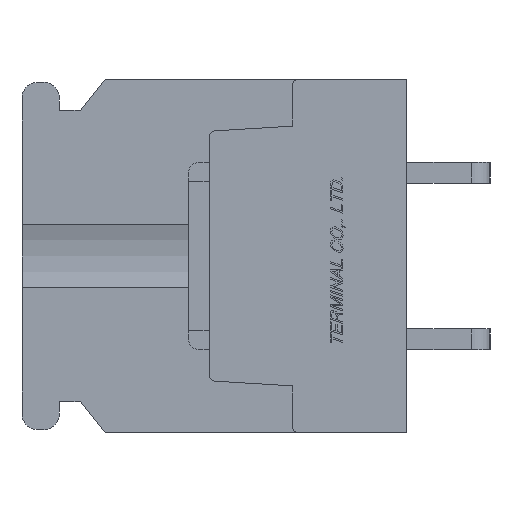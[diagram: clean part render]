
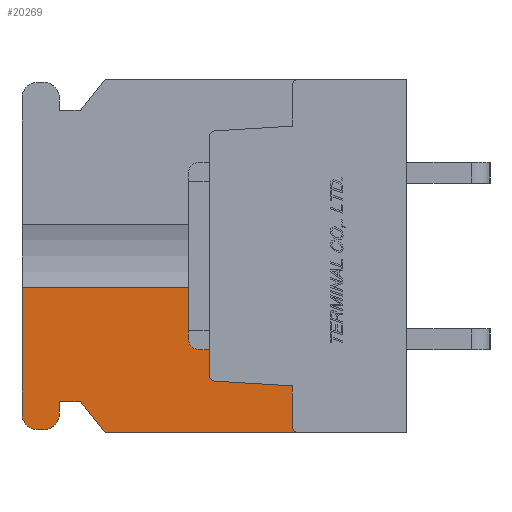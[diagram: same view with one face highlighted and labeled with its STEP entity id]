
A CAD part, left-side view. The second image highlights one B-rep face of the part: STEP entity #20269.
In plain terms, the highlighted planar face has unit normal (-1, 0, 0).
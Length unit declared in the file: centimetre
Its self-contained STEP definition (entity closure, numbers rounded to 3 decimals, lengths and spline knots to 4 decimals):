
#1483=VECTOR('',#23066,1.);
#1484=VECTOR('',#23067,1.);
#1485=VECTOR('',#23068,1.);
#1486=VECTOR('',#23071,1.);
#1487=VECTOR('',#23074,1.);
#1488=VECTOR('',#23075,1.);
#1489=VECTOR('',#23076,1.);
#1490=VECTOR('',#23077,1.);
#1491=VECTOR('',#23080,1.);
#1492=VECTOR('',#23081,1.);
#3721=LINE('',#28970,#1483);
#3722=LINE('',#28973,#1484);
#3723=LINE('',#28975,#1485);
#3724=LINE('',#28979,#1486);
#3725=LINE('',#28983,#1487);
#3726=LINE('',#28985,#1488);
#3727=LINE('',#28987,#1489);
#3728=LINE('',#28989,#1490);
#3729=LINE('',#28993,#1491);
#3730=LINE('',#28995,#1492);
#5910=VERTEX_POINT('',#28971);
#5911=VERTEX_POINT('',#28972);
#5912=VERTEX_POINT('',#28974);
#5913=VERTEX_POINT('',#28976);
#5914=VERTEX_POINT('',#28978);
#5915=VERTEX_POINT('',#28980);
#5916=VERTEX_POINT('',#28982);
#5917=VERTEX_POINT('',#28984);
#5918=VERTEX_POINT('',#28986);
#5919=VERTEX_POINT('',#28988);
#5920=VERTEX_POINT('',#28990);
#5921=VERTEX_POINT('',#28992);
#5922=VERTEX_POINT('',#28994);
#5923=VERTEX_POINT('',#28996);
#7468=CIRCLE('',#34586,0.075);
#7469=CIRCLE('',#34587,0.075);
#7470=CIRCLE('',#34588,0.03);
#7471=CIRCLE('',#34589,0.03);
#8802=EDGE_CURVE('',#5910,#5911,#3721,.T.);
#8803=EDGE_CURVE('',#5910,#5912,#3722,.T.);
#8804=EDGE_CURVE('',#5913,#5912,#3723,.T.);
#8805=EDGE_CURVE('',#5914,#5913,#7468,.T.);
#8806=EDGE_CURVE('',#5915,#5914,#3724,.T.);
#8807=EDGE_CURVE('',#5916,#5915,#7469,.T.);
#8808=EDGE_CURVE('',#5917,#5916,#3725,.T.);
#8809=EDGE_CURVE('',#5918,#5917,#3726,.T.);
#8810=EDGE_CURVE('',#5919,#5918,#3727,.T.);
#8811=EDGE_CURVE('',#5920,#5919,#3728,.T.);
#8812=EDGE_CURVE('',#5921,#5920,#7470,.T.);
#8813=EDGE_CURVE('',#5922,#5921,#3729,.T.);
#8814=EDGE_CURVE('',#5923,#5922,#3730,.T.);
#8815=EDGE_CURVE('',#5911,#5923,#7471,.T.);
#12710=ORIENTED_EDGE('',*,*,#8802,.F.);
#12711=ORIENTED_EDGE('',*,*,#8803,.T.);
#12712=ORIENTED_EDGE('',*,*,#8804,.F.);
#12713=ORIENTED_EDGE('',*,*,#8805,.F.);
#12714=ORIENTED_EDGE('',*,*,#8806,.F.);
#12715=ORIENTED_EDGE('',*,*,#8807,.F.);
#12716=ORIENTED_EDGE('',*,*,#8808,.F.);
#12717=ORIENTED_EDGE('',*,*,#8809,.F.);
#12718=ORIENTED_EDGE('',*,*,#8810,.F.);
#12719=ORIENTED_EDGE('',*,*,#8811,.F.);
#12720=ORIENTED_EDGE('',*,*,#8812,.F.);
#12721=ORIENTED_EDGE('',*,*,#8813,.F.);
#12722=ORIENTED_EDGE('',*,*,#8814,.F.);
#12723=ORIENTED_EDGE('',*,*,#8815,.F.);
#17712=EDGE_LOOP('',(#12710,#12711,#12712,#12713,#12714,#12715,#12716,#12717,
#12718,#12719,#12720,#12721,#12722,#12723));
#19018=FACE_BOUND('',#17712,.T.);
#20269=ADVANCED_FACE('',(#19018),#21340,.F.);
#21340=PLANE('',#34585);
#23065=DIRECTION('',(1.,0.,0.));
#23066=DIRECTION('',(0.,0.,-1.));
#23067=DIRECTION('',(0.,1.,0.));
#23068=DIRECTION('',(0.,0.,1.));
#23069=DIRECTION('',(1.,0.,0.));
#23070=DIRECTION('',(0.,0.,-0.075));
#23071=DIRECTION('',(0.,1.,0.));
#23072=DIRECTION('',(1.,0.,0.));
#23073=DIRECTION('',(0.,0.,-0.075));
#23074=DIRECTION('',(0.,0.,-1.));
#23075=DIRECTION('',(0.,1.,0.));
#23076=DIRECTION('',(0.,0.625,0.781));
#23077=DIRECTION('',(0.,1.,0.));
#23078=DIRECTION('',(-1.,0.,0.));
#23079=DIRECTION('',(0.,0.,0.03));
#23080=DIRECTION('',(0.,0.,-1.));
#23081=DIRECTION('',(0.,-0.998,-0.061));
#23082=DIRECTION('',(-1.,0.,0.));
#23083=DIRECTION('',(0.,0.,0.03));
#28969=CARTESIAN_POINT('',(-1.1,0.9454,0.));
#28970=CARTESIAN_POINT('',(-1.1,0.95,0.5718));
#28971=CARTESIAN_POINT('',(-1.1,0.95,-0.1521));
#28972=CARTESIAN_POINT('',(-1.1,0.95,-0.5718));
#28973=CARTESIAN_POINT('',(-1.1,1.4,-0.1521));
#28974=CARTESIAN_POINT('',(-1.1,1.85,-0.1521));
#28975=CARTESIAN_POINT('',(-1.1,1.85,-0.76));
#28976=CARTESIAN_POINT('',(-1.1,1.85,-0.76));
#28977=CARTESIAN_POINT('',(-1.1,1.775,-0.76));
#28978=CARTESIAN_POINT('',(-1.1,1.775,-0.835));
#28979=CARTESIAN_POINT('',(-1.1,1.745,-0.835));
#28980=CARTESIAN_POINT('',(-1.1,1.745,-0.835));
#28981=CARTESIAN_POINT('',(-1.1,1.745,-0.76));
#28982=CARTESIAN_POINT('',(-1.1,1.67,-0.76));
#28983=CARTESIAN_POINT('',(-1.1,1.67,-0.7));
#28984=CARTESIAN_POINT('',(-1.1,1.67,-0.7));
#28985=CARTESIAN_POINT('',(-1.1,1.57,-0.7));
#28986=CARTESIAN_POINT('',(-1.1,1.57,-0.7));
#28987=CARTESIAN_POINT('',(-1.1,1.45,-0.85));
#28988=CARTESIAN_POINT('',(-1.1,1.45,-0.85));
#28989=CARTESIAN_POINT('',(-1.1,0.,-0.85));
#28990=CARTESIAN_POINT('',(-1.1,0.52,-0.85));
#28991=CARTESIAN_POINT('',(-1.1,0.52,-0.82));
#28992=CARTESIAN_POINT('',(-1.1,0.55,-0.82));
#28993=CARTESIAN_POINT('',(-1.1,0.55,-0.6245));
#28994=CARTESIAN_POINT('',(-1.1,0.55,-0.6245));
#28995=CARTESIAN_POINT('',(-1.1,0.9218,-0.6017));
#28996=CARTESIAN_POINT('',(-1.1,0.9218,-0.6017));
#28997=CARTESIAN_POINT('',(-1.1,0.92,-0.5718));
#34585=AXIS2_PLACEMENT_3D('',#28969,#23065,$);
#34586=AXIS2_PLACEMENT_3D('',#28977,#23069,#23070);
#34587=AXIS2_PLACEMENT_3D('',#28981,#23072,#23073);
#34588=AXIS2_PLACEMENT_3D('',#28991,#23078,#23079);
#34589=AXIS2_PLACEMENT_3D('',#28997,#23082,#23083);
